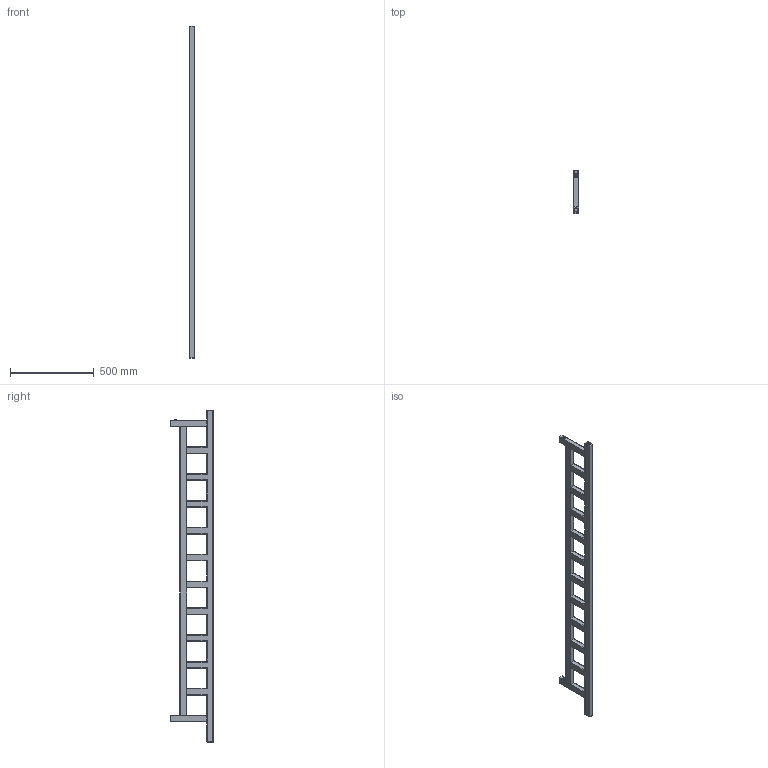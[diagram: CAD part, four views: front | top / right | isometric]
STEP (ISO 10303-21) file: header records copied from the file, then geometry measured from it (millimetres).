
FILE_DESCRIPTION((''),'2;1');
FILE_NAME('Z:\R\G\P\RGP102 - Grzejnik Easy 2012\Work\Inventor\Marketing\Modele AutoCAD\EAS-SD-1900-200 15.stp','2012-07-02T08:14:14',('KurKa'),(''),'Autodesk Inventor 2012','Autodesk Inventor 2012','');
FILE_SCHEMA(('AUTOMOTIVE_DESIGN { 1 0 10303 214 1 1 1 1 }'));
Length unit declared in the file: millimetre
Products named in the file (3): EAS-SD-1900-200 15; konsola MMT42
Assembly tree (3 placements, depth 2):
  EAS-SD-1900-200 15
    EAS-SD-1900-200 15
    konsola MMT42  x2
Bounding box: 30 x 255 x 1980 mm (x, y, z)
Volume: 6320844.8 mm3; surface area: 723737.9 mm2
Topology: 3 solids, 5 shells, 270 faces, 660 edges, 384 vertices
Faces by surface type: plane 142, cylinder 114, bspline 8, torus 4, cone 2
Full cylindrical faces by diameter (mm): 4.134 x2, 10 x2, 18.631 x2
Entity records: 7306 total; most frequent: CARTESIAN_POINT 1546, DIRECTION 1238, ORIENTED_EDGE 1158, EDGE_CURVE 579, AXIS2_PLACEMENT_3D 425, VECTOR 388, LINE 388, VERTEX_POINT 333
